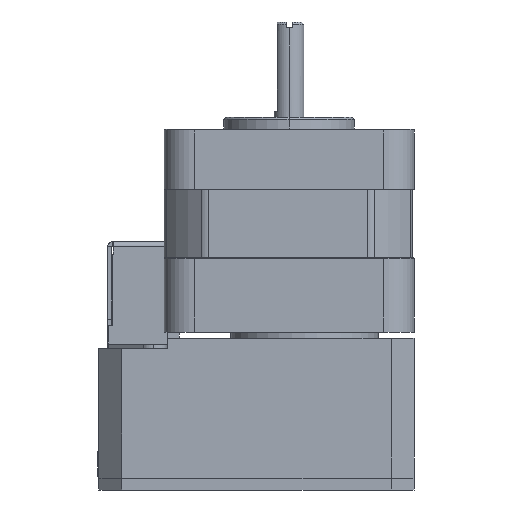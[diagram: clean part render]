
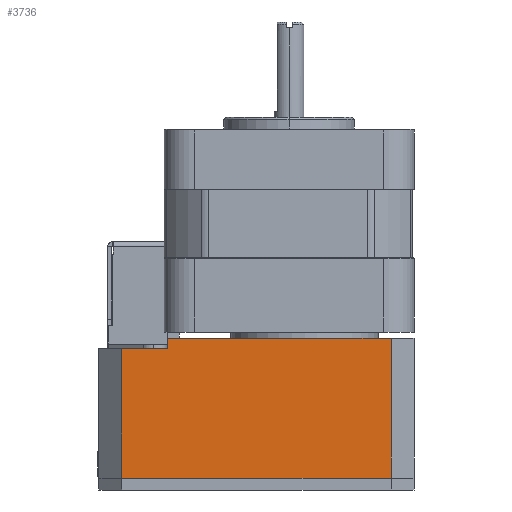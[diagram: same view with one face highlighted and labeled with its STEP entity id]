
A CAD part, left-side view. The second image highlights one B-rep face of the part: STEP entity #3736.
In plain terms, the highlighted planar face has unit normal (-1, 0, 0).
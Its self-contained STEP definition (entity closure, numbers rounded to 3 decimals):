
#239 = FACE_OUTER_BOUND ( 'NONE', #12037, .T. ) ;
#1172 = CARTESIAN_POINT ( 'NONE',  ( -35.036, 8.74, -50.994 ) ) ;
#1173 = DIRECTION ( 'NONE',  ( 0., 0., -1. ) ) ;
#1176 = CARTESIAN_POINT ( 'NONE',  ( -35.036, 14.49, -40.994 ) ) ;
#1177 = DIRECTION ( 'NONE',  ( 0., 1., 0. ) ) ;
#1178 = CARTESIAN_POINT ( 'NONE',  ( -35.036, 16.39, -51.869 ) ) ;
#1179 = DIRECTION ( 'NONE',  ( 0., 0., -1. ) ) ;
#1182 = CARTESIAN_POINT ( 'NONE',  ( -35.036, -6.26, -62.744 ) ) ;
#1183 = DIRECTION ( 'NONE',  ( 0., 1., 0. ) ) ;
#1287 = CARTESIAN_POINT ( 'NONE',  ( -35.036, -28.91, -50.994 ) ) ;
#1288 = DIRECTION ( 'NONE',  ( 0., 0., 1. ) ) ;
#2182 = CARTESIAN_POINT ( 'NONE',  ( -35.036, -6.26, -39.244 ) ) ;
#2183 = DIRECTION ( 'NONE',  ( 0., 1., 0. ) ) ;
#3736 = ADVANCED_FACE ( 'NONE', ( #239 ), #6588, .T. ) ;
#6588 = PLANE ( 'NONE',  #6982 ) ;
#6589 = CARTESIAN_POINT ( 'NONE',  ( -35.036, 16.39, -62.744 ) ) ;
#6590 = DIRECTION ( 'NONE',  ( -1., 0., 0. ) ) ;
#6591 = DIRECTION ( 'NONE',  ( 0., -1., 0. ) ) ;
#6982 = AXIS2_PLACEMENT_3D ( 'NONE', #6589, #6590, #6591 ) ;
#8373 = LINE ( 'NONE', #1176, #8386 ) ;
#8377 = LINE ( 'NONE', #1172, #8385 ) ;
#8385 = VECTOR ( 'NONE', #1173, 1000. ) ;
#8386 = VECTOR ( 'NONE', #1177, 1000. ) ;
#8390 = LINE ( 'NONE', #1182, #8396 ) ;
#8396 = VECTOR ( 'NONE', #1183, 1000. ) ;
#8404 = VECTOR ( 'NONE', #1179, 1000. ) ;
#8468 = VECTOR ( 'NONE', #1288, 1000. ) ;
#8475 = LINE ( 'NONE', #1178, #8404 ) ;
#8482 = LINE ( 'NONE', #1287, #8468 ) ;
#9436 = EDGE_CURVE ( 'NONE', #21868, #21822, #8377, .T. ) ;
#9438 = EDGE_CURVE ( 'NONE', #21822, #21491, #8373, .T. ) ;
#9439 = EDGE_CURVE ( 'NONE', #21491, #21439, #8475, .T. ) ;
#9441 = EDGE_CURVE ( 'NONE', #21482, #21439, #8390, .T. ) ;
#9488 = EDGE_CURVE ( 'NONE', #21482, #21466, #8482, .T. ) ;
#9620 = VECTOR ( 'NONE', #2183, 1000. ) ;
#9634 = LINE ( 'NONE', #2182, #9620 ) ;
#11442 = EDGE_CURVE ( 'NONE', #21466, #21868, #9634, .T. ) ;
#12037 = EDGE_LOOP ( 'NONE', ( #15752, #15710, #15708, #15791, #16031, #15841 ) ) ;
#13420 = CARTESIAN_POINT ( 'NONE',  ( -35.036, 16.39, -62.744 ) ) ;
#13466 = CARTESIAN_POINT ( 'NONE',  ( -35.036, -28.91, -39.244 ) ) ;
#13493 = CARTESIAN_POINT ( 'NONE',  ( -35.036, -28.91, -62.744 ) ) ;
#13510 = CARTESIAN_POINT ( 'NONE',  ( -35.036, 16.39, -40.994 ) ) ;
#14064 = CARTESIAN_POINT ( 'NONE',  ( -35.036, 8.74, -40.994 ) ) ;
#14142 = CARTESIAN_POINT ( 'NONE',  ( -35.036, 8.74, -39.244 ) ) ;
#15708 = ORIENTED_EDGE ( 'NONE', *, *, #9438, .T. ) ;
#15710 = ORIENTED_EDGE ( 'NONE', *, *, #9436, .T. ) ;
#15752 = ORIENTED_EDGE ( 'NONE', *, *, #11442, .T. ) ;
#15791 = ORIENTED_EDGE ( 'NONE', *, *, #9439, .T. ) ;
#15841 = ORIENTED_EDGE ( 'NONE', *, *, #9488, .T. ) ;
#16031 = ORIENTED_EDGE ( 'NONE', *, *, #9441, .F. ) ;
#21439 = VERTEX_POINT ( 'NONE', #13420 ) ;
#21466 = VERTEX_POINT ( 'NONE', #13466 ) ;
#21482 = VERTEX_POINT ( 'NONE', #13493 ) ;
#21491 = VERTEX_POINT ( 'NONE', #13510 ) ;
#21822 = VERTEX_POINT ( 'NONE', #14064 ) ;
#21868 = VERTEX_POINT ( 'NONE', #14142 ) ;
